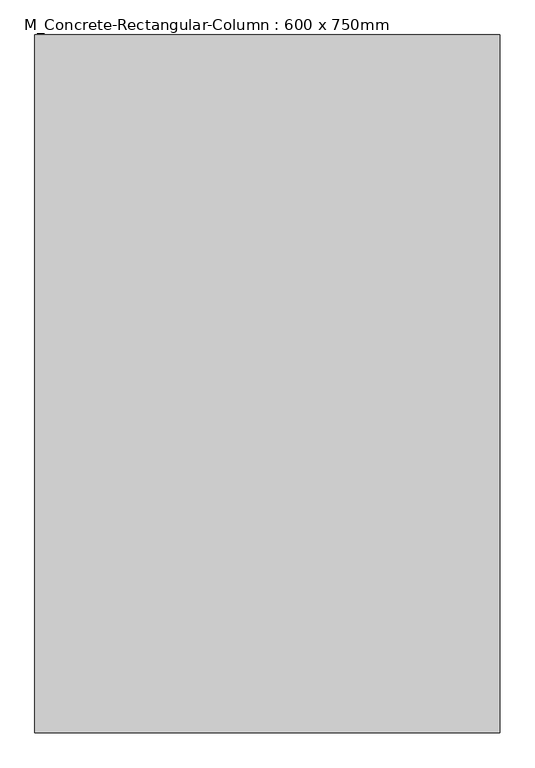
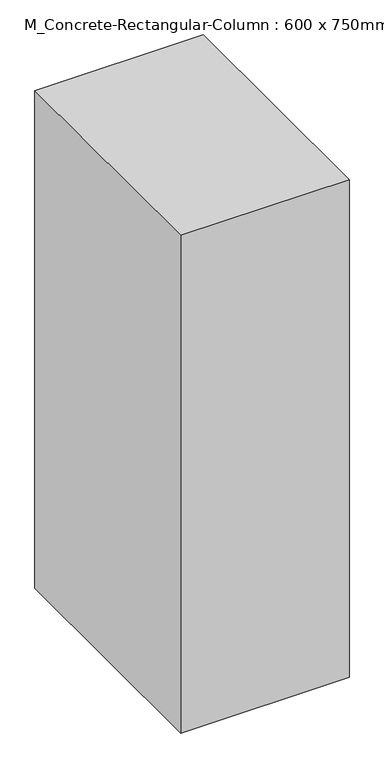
"""IFC4 building model written with IfcOpenShell, lengths in millimetres: column geometry, M_Concrete-Rectangular-Column : 600 x 750mm."""

from ifc_helpers import new_model, si_unit, frame, origin, place, context, project, spatial, polyline, outline, extrude, source, transform, mapped, element, save


def m_concrete_rectangular_column_600_x_750mm_b28e52ee(model_context):
    return source(origin(), model_context, "Body", "SweptSolid", [
        extrude(outline(polyline([(400.0, 600.0), (400.0, -600.0), (-400.0, -600.0), (-400.0, 600.0), (400.0, 600.0)])), frame((0.0, 0.0, -2500.0), z_axis=(0.0, 0.0, 1.0), x_axis=(1.0, 0.0, 0.0)), (0.0, 0.0, 1.0), 2500.0),
    ])


if __name__ == "__main__":
    model = new_model("IFC4")
    model_context = context("Model", 3, world=origin())
    ifc_project = project(units=[si_unit("LENGTHUNIT", "METRE", prefix="MILLI")], contexts=[model_context])
    site = spatial("IfcSite", under=ifc_project)
    building = spatial("IfcBuilding", under=site)
    placement = place(None, origin())
    m_concrete_rectangular_column_600_x_750mm_shape = m_concrete_rectangular_column_600_x_750mm_b28e52ee(model_context)
    element("IfcColumn", 1, ObjectType="M_Concrete-Rectangular-Column : 600 x 750mm", at=placement, inside=building, context=model_context, shape_type="MappedRepresentation", body=[
        mapped(m_concrete_rectangular_column_600_x_750mm_shape, transform((0.0, 0.0, 0.0), x_axis=(1.0, 0.0, 0.0), y_axis=(0.0, 1.0, 0.0), z_axis=(0.0, 0.0, 1.0))),
    ])
    save(model, "model.ifc")
